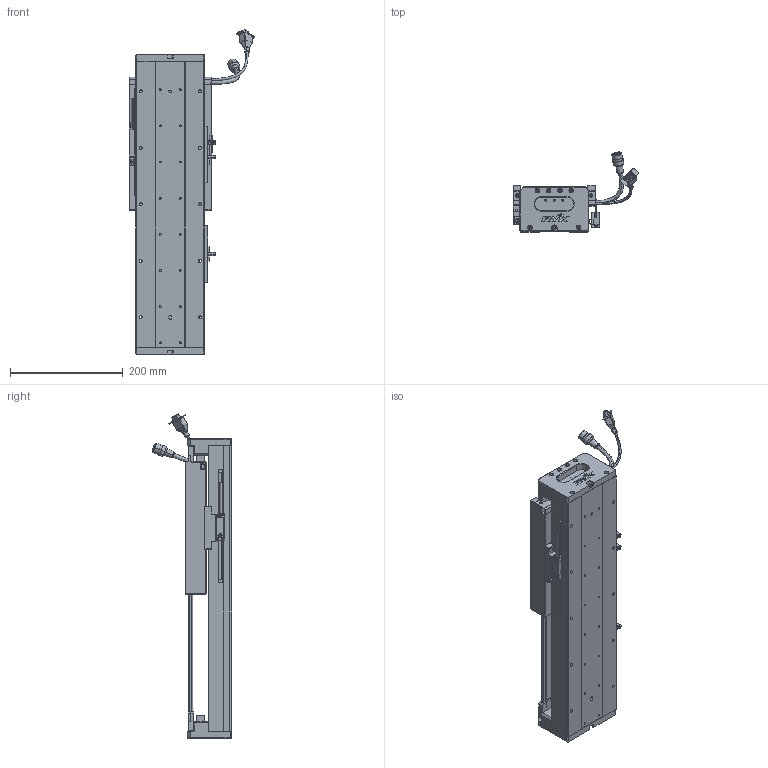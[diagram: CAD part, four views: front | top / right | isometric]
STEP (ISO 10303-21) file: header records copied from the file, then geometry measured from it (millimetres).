
FILE_DESCRIPTION (( 'STEP AP203' ), '1' );
FILE_NAME ('Z3-RY120D-1-L500-B-K.SLDASM_0200.step', '2021-05-17T05:45:39', ( '盈信电脑' ), ( '东莞市道滘镇水果街19号' ), 'SwSTEP 2.0', 'SolidWorks 2016', '' );
FILE_SCHEMA (( 'CONFIG_CONTROL_DESIGN' ));
Length unit declared in the file: millimetre
Products named in the file (37): HARNESS-Part-1; SCREW-M1.6-3; Z3-RY120-500-倰第菁釱_0200; SCREW-M1.6-2; SCALE; COVER; Z3-RY120D-1-L500-B-K.SLDASM_0200; Z-RY120D詩湍奻揤裔; Z3-RY120铝滑块（21款）; HARNESS-Part-2; 080黍杅芛假蚾釱21遴; RY100FB-遵嫖萇覜茼え; 140蚥薯蝶輸; 榋妏寠巭燃_暯_M2_2; SEAL; PBU_SHEET; Z-RY120D詩湍狟揤裔; SCALE-Part-2; PSLH080_PSLF2; LABEL; SCREW-M1.7; SCREW-M1.7-1; 672嫖萇羲壽假蚾釱; 覜茼ん672; SCREW-M1.6; SCALE-Part-1; SHIELDPLATE; Z3-RY120-L500詩湍100mm遵_0200; COVER-Part-1; SEAL-Part-1; Z-120詩湍傷裔啣; HOLDER0; 140雄赽晤鎢ん堤盄; LABEL-Part-1; 120-Z-臏賑輸盄裔(21遴); HARNESS; SCREW-M1.6-1
Assembly tree (43 placements, depth 4):
  Z3-RY120D-1-L500-B-K.SLDASM_0200
    Z3-RY120-500-倰第菁釱_0200
    覜茼ん672  x3
    672嫖萇羲壽假蚾釱  x2
    Z3-RY120铝滑块（21款）
    PSLH080_PSLF2
      SCALE
        SCALE-Part-1
        SCALE-Part-2
      HARNESS
        HARNESS-Part-1
        HARNESS-Part-2
      LABEL
        LABEL-Part-1
      COVER
        COVER-Part-1
      SEAL
        SEAL-Part-1
      榋妏寠巭燃_暯_M2_2
      SHIELDPLATE
      SCREW-M1.7
      SCREW-M1.7-1
      PBU_SHEET
      SCREW-M1.6
      SCREW-M1.6-1
      SCREW-M1.6-2
      SCREW-M1.6-3
      HOLDER0
    080黍杅芛假蚾釱21遴
    120-Z-臏賑輸盄裔(21遴)
    140雄赽晤鎢ん堤盄
    140蚥薯蝶輸  x2
    RY100FB-遵嫖萇覜茼え
    Z-120詩湍傷裔啣  x2
    Z-RY120D詩湍奻揤裔  x2
    Z-RY120D詩湍狟揤裔  x2
    Z3-RY120-L500詩湍100mm遵_0200
Bounding box: 222.88 x 140.94 x 574 mm (x, y, z)
Volume: 2059450.3 mm3; surface area: 647769.8 mm2
Topology: 38 solids, 38 shells, 2529 faces, 6659 edges, 4206 vertices
Faces by surface type: cylinder 1081, plane 1080, cone 246, torus 69, bspline 53
Entity records: 71830 total; most frequent: CARTESIAN_POINT 17603, DIRECTION 10559, ORIENTED_EDGE 10350, EDGE_CURVE 5175, AXIS2_PLACEMENT_3D 3844, VERTEX_POINT 3326, VECTOR 2871, LINE 2871
